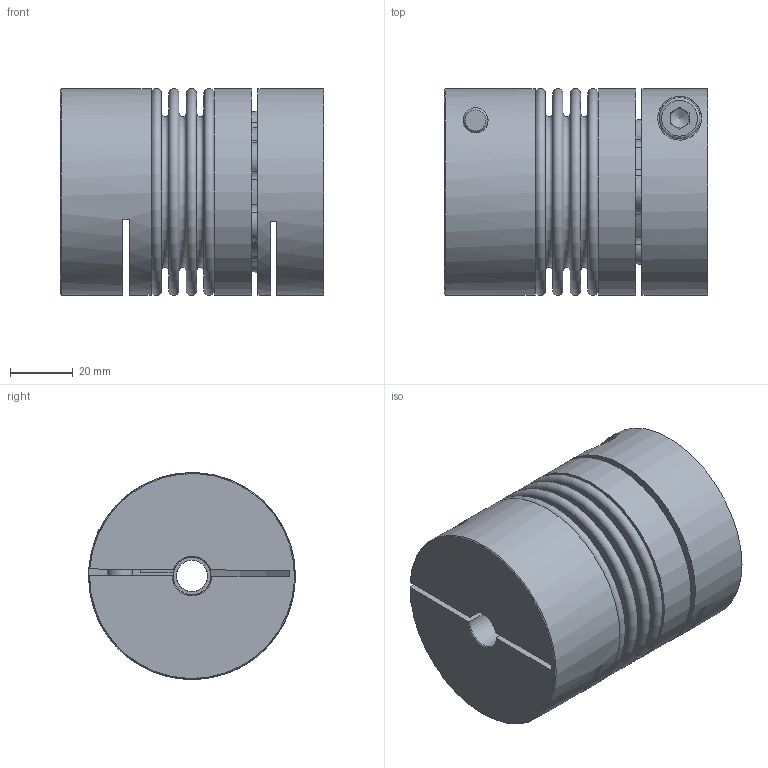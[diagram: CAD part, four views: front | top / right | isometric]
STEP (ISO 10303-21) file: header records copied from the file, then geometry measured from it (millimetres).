
FILE_DESCRIPTION( ( 'Unknown' ), '1' );
FILE_NAME( 'C:/Users/skarpstein/Desktop/KB4P/KB4P/KB4P-60-85.stp', 'Unknown', ( 'Unknown' ), ( 'Unknown' ), 'PSStep 16.0.42', 'Unknown', ' ' );
FILE_SCHEMA( ( 'AUTOMOTIVE_DESIGN { 1 0 10303 214 1 1 1 1 }' ) );
Length unit declared in the file: millimetre
Products named in the file (6): Assem1; BK60_Standard_0; KN60_Standard_1; Socket Head Cap Screw_DIN_DIN 912 M8 x 25 --- 25C; Stecknabe KB4P-60; Balgaufnahme KB4P-60
Assembly tree (6 placements, depth 2):
  Assem1
    BK60_Standard_0
    KN60_Standard_1
    Socket Head Cap Screw_DIN_DIN 912 M8 x 25 --- 25C  x2
    Stecknabe KB4P-60
    Balgaufnahme KB4P-60
Bounding box: 84.1 x 66 x 66 mm (x, y, z)
Volume: 204778.7 mm3; surface area: 80284.1 mm2
Topology: 6 solids, 6 shells, 170 faces, 400 edges, 261 vertices
Faces by surface type: plane 70, cone 55, cylinder 25, torus 20
Full cylindrical faces by diameter (mm): 6.647 x1, 8 x3, 8.5 x2, 10 x1, 12 x1, 13 x2, 14 x2, 56.3 x2, 57.3 x2, 66 x3
Entity records: 5810 total; most frequent: CARTESIAN_POINT 1034, DIRECTION 798, ORIENTED_EDGE 618, AXIS2_PLACEMENT_3D 344, EDGE_CURVE 309, VERTEX_POINT 234, EDGE_LOOP 220, CIRCLE 188
